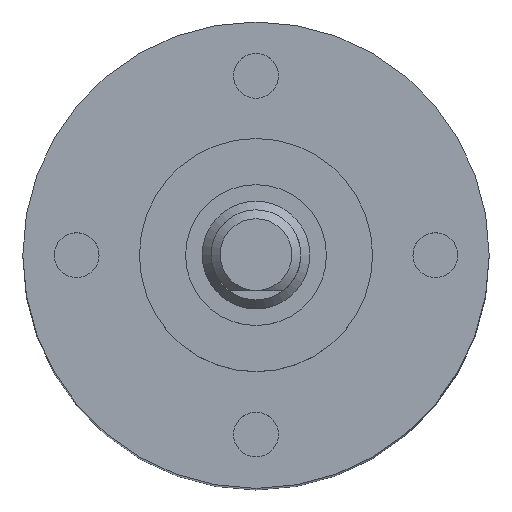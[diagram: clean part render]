
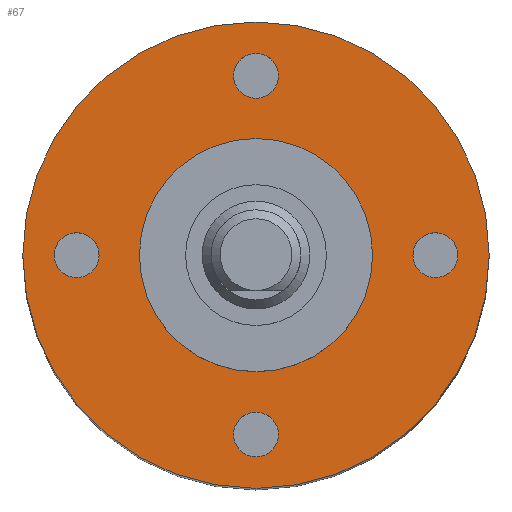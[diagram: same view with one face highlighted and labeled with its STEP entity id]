
A CAD part, top view. The second image highlights one B-rep face of the part: STEP entity #67.
In plain terms, the highlighted planar face has unit normal (0, 0, 1).
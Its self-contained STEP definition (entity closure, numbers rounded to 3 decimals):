
#34=PLANE('',#500);
#67=ADVANCED_FACE('',(#124,#125,#126,#127,#128,#129),#34,.T.);
#124=FACE_BOUND('',#179,.T.);
#125=FACE_BOUND('',#180,.T.);
#126=FACE_BOUND('',#181,.T.);
#127=FACE_BOUND('',#182,.T.);
#128=FACE_BOUND('',#183,.T.);
#129=FACE_BOUND('',#184,.T.);
#179=EDGE_LOOP('',(#248));
#180=EDGE_LOOP('',(#249));
#181=EDGE_LOOP('',(#250));
#182=EDGE_LOOP('',(#251));
#183=EDGE_LOOP('',(#252));
#184=EDGE_LOOP('',(#253));
#248=ORIENTED_EDGE('',*,*,#354,.T.);
#249=ORIENTED_EDGE('',*,*,#355,.T.);
#250=ORIENTED_EDGE('',*,*,#356,.T.);
#251=ORIENTED_EDGE('',*,*,#357,.T.);
#252=ORIENTED_EDGE('',*,*,#358,.F.);
#253=ORIENTED_EDGE('',*,*,#352,.T.);
#316=VERTEX_POINT('',#744);
#318=VERTEX_POINT('',#750);
#319=VERTEX_POINT('',#752);
#320=VERTEX_POINT('',#754);
#321=VERTEX_POINT('',#756);
#322=VERTEX_POINT('',#758);
#352=EDGE_CURVE('',#316,#316,#415,.T.);
#354=EDGE_CURVE('',#318,#318,#417,.T.);
#355=EDGE_CURVE('',#319,#319,#418,.T.);
#356=EDGE_CURVE('',#320,#320,#419,.T.);
#357=EDGE_CURVE('',#321,#321,#420,.T.);
#358=EDGE_CURVE('',#322,#322,#421,.T.);
#415=CIRCLE('',#491,13.);
#417=CIRCLE('',#495,1.25);
#418=CIRCLE('',#496,1.25);
#419=CIRCLE('',#497,1.25);
#420=CIRCLE('',#498,1.25);
#421=CIRCLE('',#499,6.5);
#491=AXIS2_PLACEMENT_3D('',#743,#588,#589);
#495=AXIS2_PLACEMENT_3D('',#749,#596,#597);
#496=AXIS2_PLACEMENT_3D('',#751,#598,#599);
#497=AXIS2_PLACEMENT_3D('',#753,#600,#601);
#498=AXIS2_PLACEMENT_3D('',#755,#602,#603);
#499=AXIS2_PLACEMENT_3D('',#757,#604,#605);
#500=AXIS2_PLACEMENT_3D('',#759,#606,#607);
#588=DIRECTION('',(0.,0.,1.));
#589=DIRECTION('',(1.,0.,0.));
#596=DIRECTION('',(0.,0.,-1.));
#597=DIRECTION('',(0.,-1.,0.));
#598=DIRECTION('',(0.,0.,-1.));
#599=DIRECTION('',(1.,0.,0.));
#600=DIRECTION('',(0.,0.,-1.));
#601=DIRECTION('',(0.,1.,0.));
#602=DIRECTION('',(0.,0.,-1.));
#603=DIRECTION('',(-1.,0.,0.));
#604=DIRECTION('',(0.,0.,1.));
#605=DIRECTION('',(1.,0.,0.));
#606=DIRECTION('',(0.,0.,1.));
#607=DIRECTION('',(1.,0.,0.));
#743=CARTESIAN_POINT('',(0.,0.,52.4));
#744=CARTESIAN_POINT('',(13.,0.,52.4));
#749=CARTESIAN_POINT('',(-10.,0.,52.4));
#750=CARTESIAN_POINT('',(-10.,-1.25,52.4));
#751=CARTESIAN_POINT('',(0.,-10.,52.4));
#752=CARTESIAN_POINT('',(1.25,-10.,52.4));
#753=CARTESIAN_POINT('',(10.,0.,52.4));
#754=CARTESIAN_POINT('',(10.,1.25,52.4));
#755=CARTESIAN_POINT('',(0.,10.,52.4));
#756=CARTESIAN_POINT('',(-1.25,10.,52.4));
#757=CARTESIAN_POINT('',(0.,0.,52.4));
#758=CARTESIAN_POINT('',(6.5,0.,52.4));
#759=CARTESIAN_POINT('',(0.,0.,52.4));
